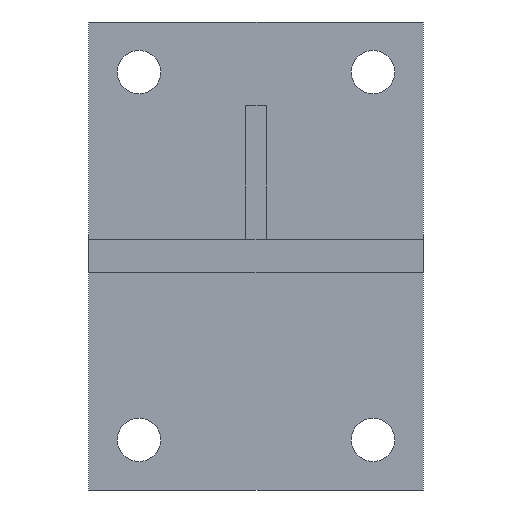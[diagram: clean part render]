
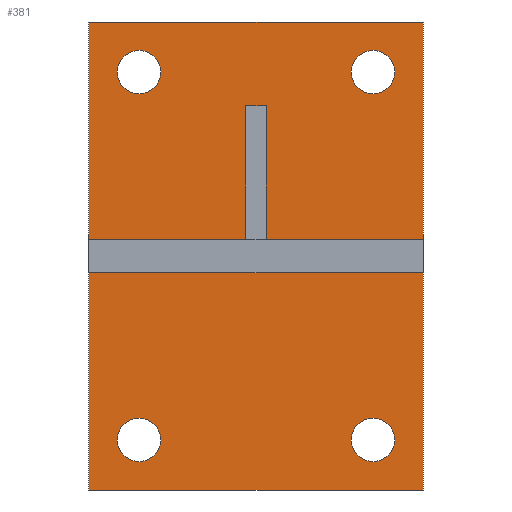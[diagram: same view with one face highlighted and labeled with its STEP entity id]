
A CAD part, left-side view. The second image highlights one B-rep face of the part: STEP entity #381.
In plain terms, the highlighted planar face has unit normal (-1, 0, 0) as drawn and (0, 0, 1) by its records, which use the part's own axes.
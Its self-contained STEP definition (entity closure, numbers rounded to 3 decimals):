
#32=FACE_BOUND('',#101,.T.);
#33=FACE_BOUND('',#102,.T.);
#34=FACE_BOUND('',#103,.T.);
#35=FACE_BOUND('',#104,.T.);
#36=FACE_BOUND('',#105,.T.);
#38=CIRCLE('',#404,3.25);
#40=CIRCLE('',#407,3.25);
#42=CIRCLE('',#410,3.25);
#44=CIRCLE('',#413,3.25);
#101=EDGE_LOOP('',(#316));
#102=EDGE_LOOP('',(#317));
#103=EDGE_LOOP('',(#318));
#104=EDGE_LOOP('',(#319));
#105=EDGE_LOOP('',(#320,#321,#322,#323));
#124=LINE('',#592,#160);
#128=LINE('',#600,#164);
#131=LINE('',#606,#167);
#134=LINE('',#611,#170);
#160=VECTOR('',#485,50.);
#164=VECTOR('',#491,70.);
#167=VECTOR('',#496,50.);
#170=VECTOR('',#501,70.);
#193=VERTEX_POINT('',#572);
#195=VERTEX_POINT('',#577);
#197=VERTEX_POINT('',#582);
#199=VERTEX_POINT('',#587);
#200=VERTEX_POINT('',#590);
#201=VERTEX_POINT('',#591);
#204=VERTEX_POINT('',#599);
#206=VERTEX_POINT('',#605);
#229=EDGE_CURVE('',#193,#193,#38,.T.);
#231=EDGE_CURVE('',#195,#195,#40,.T.);
#233=EDGE_CURVE('',#197,#197,#42,.T.);
#235=EDGE_CURVE('',#199,#199,#44,.T.);
#236=EDGE_CURVE('',#200,#201,#124,.T.);
#240=EDGE_CURVE('',#201,#204,#128,.T.);
#243=EDGE_CURVE('',#204,#206,#131,.T.);
#246=EDGE_CURVE('',#206,#200,#134,.T.);
#316=ORIENTED_EDGE('',*,*,#229,.T.);
#317=ORIENTED_EDGE('',*,*,#231,.T.);
#318=ORIENTED_EDGE('',*,*,#233,.T.);
#319=ORIENTED_EDGE('',*,*,#235,.T.);
#320=ORIENTED_EDGE('',*,*,#236,.F.);
#321=ORIENTED_EDGE('',*,*,#246,.F.);
#322=ORIENTED_EDGE('',*,*,#243,.F.);
#323=ORIENTED_EDGE('',*,*,#240,.F.);
#359=PLANE('',#419);
#381=ADVANCED_FACE('',(#32,#33,#34,#35,#36),#359,.T.);
#404=AXIS2_PLACEMENT_3D('',#573,#463,#464);
#407=AXIS2_PLACEMENT_3D('',#578,#469,#470);
#410=AXIS2_PLACEMENT_3D('',#583,#475,#476);
#413=AXIS2_PLACEMENT_3D('',#588,#481,#482);
#419=AXIS2_PLACEMENT_3D('',#614,#505,#506);
#463=DIRECTION('center_axis',(0.,0.,-1.));
#464=DIRECTION('ref_axis',(1.,0.,0.));
#469=DIRECTION('center_axis',(0.,0.,-1.));
#470=DIRECTION('ref_axis',(1.,0.,0.));
#475=DIRECTION('center_axis',(0.,0.,-1.));
#476=DIRECTION('ref_axis',(1.,0.,0.));
#481=DIRECTION('center_axis',(0.,0.,-1.));
#482=DIRECTION('ref_axis',(1.,0.,0.));
#485=DIRECTION('',(0.,1.,0.));
#491=DIRECTION('',(1.,0.,0.));
#496=DIRECTION('',(0.,-1.,0.));
#501=DIRECTION('',(-1.,0.,0.));
#505=DIRECTION('center_axis',(0.,0.,1.));
#506=DIRECTION('ref_axis',(1.,0.,0.));
#572=CARTESIAN_POINT('',(30.75,17.5,10.));
#573=CARTESIAN_POINT('Origin',(27.5,17.5,10.));
#577=CARTESIAN_POINT('',(-24.25,17.5,10.));
#578=CARTESIAN_POINT('Origin',(-27.5,17.5,10.));
#582=CARTESIAN_POINT('',(30.75,-17.5,10.));
#583=CARTESIAN_POINT('Origin',(27.5,-17.5,10.));
#587=CARTESIAN_POINT('',(-24.25,-17.5,10.));
#588=CARTESIAN_POINT('Origin',(-27.5,-17.5,10.));
#590=CARTESIAN_POINT('',(-35.,-25.,10.));
#591=CARTESIAN_POINT('',(-35.,25.,10.));
#592=CARTESIAN_POINT('',(-35.,25.,10.));
#599=CARTESIAN_POINT('',(35.,25.,10.));
#600=CARTESIAN_POINT('',(35.,25.,10.));
#605=CARTESIAN_POINT('',(35.,-25.,10.));
#606=CARTESIAN_POINT('',(35.,-25.,10.));
#611=CARTESIAN_POINT('',(-35.,-25.,10.));
#614=CARTESIAN_POINT('Origin',(0.,0.,
10.));
